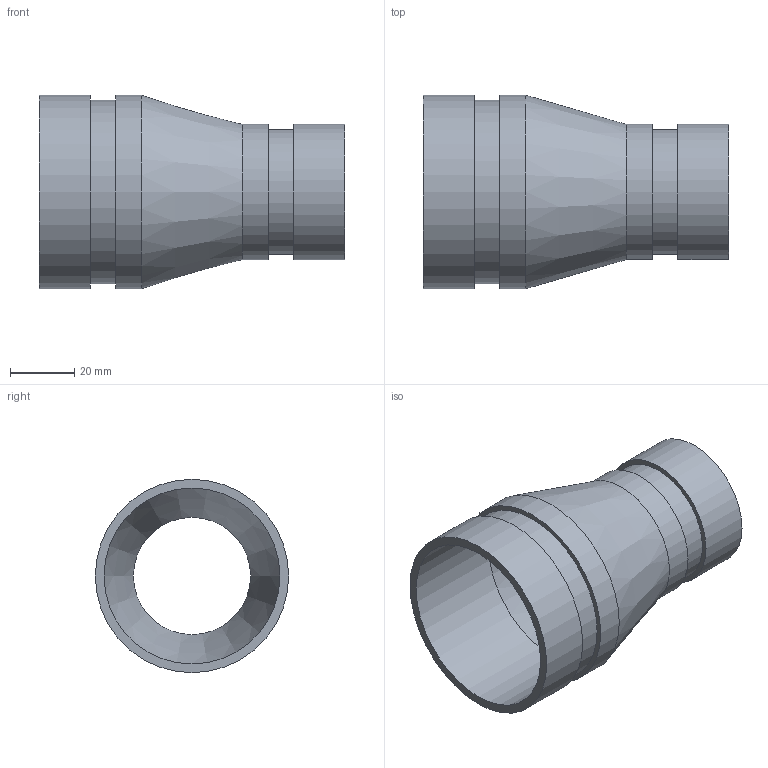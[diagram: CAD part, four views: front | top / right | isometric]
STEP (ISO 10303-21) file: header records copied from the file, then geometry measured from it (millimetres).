
FILE_DESCRIPTION(/* description */ ('VIC REDUCER CONCENTRIC No 450-SS','CAx-IF Rec.Pracs.---Representation and Presentation of Product Manufacturing Information (PMI)---4.0---2014-10-13'),/* implementation_level */ '2;1');
FILE_NAME(/* name */ 'C:\Users\kkamble\AppData\Roaming\Autodesk\ApplicationPlugins\Back Up\Victaulic_SS-OGS_Reducer Concentric_Sched 10S_No 450 SS (OGS)\Victaulic_SS-OGS_Reducer Concentric_Sched 10S_No 450 SS (OGS)_02.0x01.25 (50x32).stp',/* time_stamp */ '2020-09-08T12:32:06+05:00',/* author */ ('CORINNE GRAY'),/* organization */ ('Victaulic'),/* preprocessor_version */ 'ST-DEVELOPER v17.2',/* originating_system */ 'Autodesk Inventor 2019',/* authorisation */ '');
FILE_SCHEMA (('AP242_MANAGED_MODEL_BASED_3D_ENGINEERING_MIM_LF { 1 0 10303 442 1 1 4 }'));
Length unit declared in the file: inch
Products named in the file (1): 450 SS-02.0x01.25
Bounding box: 95.25 x 60.33 x 60.33 mm (x, y, z)
Volume: 36068.4 mm3; surface area: 31083.4 mm2
Topology: 1 solids, 1 shells, 16 faces, 42 edges, 32 vertices
Faces by surface type: cylinder 8, plane 6, cone 2
Full cylindrical faces by diameter (mm): 36.576 x1, 38.989 x1, 42.164 x2, 54.864 x1, 57.15 x1, 60.325 x2
Entity records: 686 total; most frequent: DIRECTION 134, CARTESIAN_POINT 108, ORIENTED_EDGE 84, AXIS2_PLACEMENT_3D 62, EDGE_CURVE 42, CIRCLE 32, VERTEX_POINT 32, EDGE_LOOP 22
